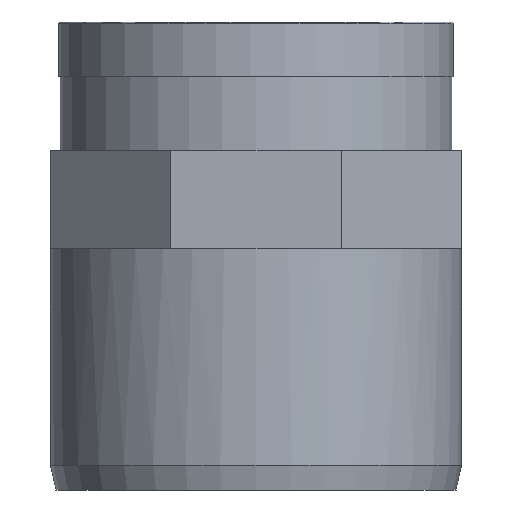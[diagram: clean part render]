
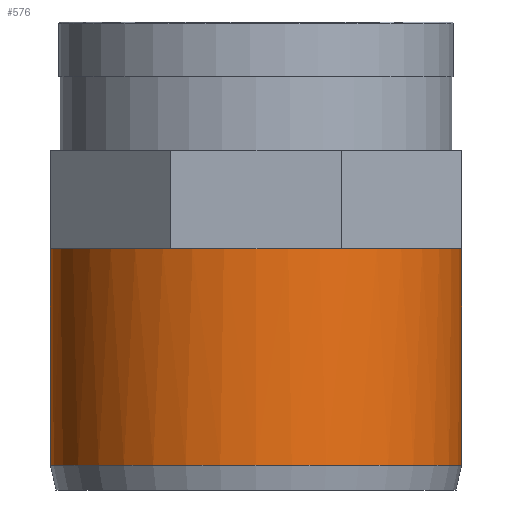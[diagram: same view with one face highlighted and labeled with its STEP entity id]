
A CAD part, front view. The second image highlights one B-rep face of the part: STEP entity #576.
In plain terms, the highlighted cylindrical face has radius 37.5 mm (diameter 75 mm), a full revolution.
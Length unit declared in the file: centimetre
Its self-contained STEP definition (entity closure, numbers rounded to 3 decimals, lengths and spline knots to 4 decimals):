
#129=FACE_BOUND('',#193,.T.);
#151=FACE_OUTER_BOUND('',#192,.T.);
#192=EDGE_LOOP('',(#416,#417,#418,#419,#420,#421,#422,#423));
#193=EDGE_LOOP('',(#424));
#241=CIRCLE('',#618,3.75);
#242=CIRCLE('',#620,3.75);
#243=CIRCLE('',#621,3.75);
#244=CIRCLE('',#622,3.75);
#245=CIRCLE('',#623,3.75);
#246=CIRCLE('',#624,3.75);
#247=CIRCLE('',#625,3.75);
#248=CIRCLE('',#626,3.75);
#249=CIRCLE('',#627,3.75);
#274=VERTEX_POINT('',#5357);
#275=VERTEX_POINT('',#5360);
#276=VERTEX_POINT('',#5361);
#277=VERTEX_POINT('',#5363);
#278=VERTEX_POINT('',#5365);
#279=VERTEX_POINT('',#5367);
#280=VERTEX_POINT('',#5369);
#281=VERTEX_POINT('',#5371);
#282=VERTEX_POINT('',#5373);
#329=EDGE_CURVE('',#274,#274,#241,.T.);
#330=EDGE_CURVE('',#275,#276,#242,.T.);
#331=EDGE_CURVE('',#276,#277,#243,.T.);
#332=EDGE_CURVE('',#277,#278,#244,.T.);
#333=EDGE_CURVE('',#278,#279,#245,.T.);
#334=EDGE_CURVE('',#279,#280,#246,.T.);
#335=EDGE_CURVE('',#280,#281,#247,.T.);
#336=EDGE_CURVE('',#281,#282,#248,.T.);
#337=EDGE_CURVE('',#282,#275,#249,.T.);
#416=ORIENTED_EDGE('',*,*,#330,.T.);
#417=ORIENTED_EDGE('',*,*,#331,.T.);
#418=ORIENTED_EDGE('',*,*,#332,.T.);
#419=ORIENTED_EDGE('',*,*,#333,.T.);
#420=ORIENTED_EDGE('',*,*,#334,.T.);
#421=ORIENTED_EDGE('',*,*,#335,.T.);
#422=ORIENTED_EDGE('',*,*,#336,.T.);
#423=ORIENTED_EDGE('',*,*,#337,.T.);
#424=ORIENTED_EDGE('',*,*,#329,.F.);
#522=CYLINDRICAL_SURFACE('',#619,3.75);
#576=ADVANCED_FACE('',(#151,#129),#522,.T.);
#618=AXIS2_PLACEMENT_3D('',#5358,#692,#693);
#619=AXIS2_PLACEMENT_3D('',#5359,#694,#695);
#620=AXIS2_PLACEMENT_3D('',#5362,#696,#697);
#621=AXIS2_PLACEMENT_3D('',#5364,#698,#699);
#622=AXIS2_PLACEMENT_3D('',#5366,#700,#701);
#623=AXIS2_PLACEMENT_3D('',#5368,#702,#703);
#624=AXIS2_PLACEMENT_3D('',#5370,#704,#705);
#625=AXIS2_PLACEMENT_3D('',#5372,#706,#707);
#626=AXIS2_PLACEMENT_3D('',#5374,#708,#709);
#627=AXIS2_PLACEMENT_3D('',#5375,#710,#711);
#692=DIRECTION('center_axis',(0.,0.,-1.));
#693=DIRECTION('ref_axis',(-1.,0.,0.));
#694=DIRECTION('center_axis',(0.,0.,1.));
#695=DIRECTION('ref_axis',(1.,0.,0.));
#696=DIRECTION('center_axis',(0.,0.,-1.));
#697=DIRECTION('ref_axis',(1.,0.,0.));
#698=DIRECTION('center_axis',(0.,0.,-1.));
#699=DIRECTION('ref_axis',(1.,0.,0.));
#700=DIRECTION('center_axis',(0.,0.,-1.));
#701=DIRECTION('ref_axis',(1.,0.,0.));
#702=DIRECTION('center_axis',(0.,0.,-1.));
#703=DIRECTION('ref_axis',(1.,0.,0.));
#704=DIRECTION('center_axis',(0.,0.,-1.));
#705=DIRECTION('ref_axis',(1.,0.,0.));
#706=DIRECTION('center_axis',(0.,0.,-1.));
#707=DIRECTION('ref_axis',(1.,0.,0.));
#708=DIRECTION('center_axis',(0.,0.,-1.));
#709=DIRECTION('ref_axis',(1.,0.,0.));
#710=DIRECTION('center_axis',(0.,0.,-1.));
#711=DIRECTION('ref_axis',(1.,0.,0.));
#5357=CARTESIAN_POINT('',(3.348,-0.003,-1.5267));
#5358=CARTESIAN_POINT('Origin',(-0.402,-0.003,
-1.5267));
#5359=CARTESIAN_POINT('Origin',(-0.402,-0.003,
1.1233));
#5360=CARTESIAN_POINT('',(2.2496,2.6487,2.4233));
#5361=CARTESIAN_POINT('',(3.348,-0.003,2.4233));
#5362=CARTESIAN_POINT('Origin',(-0.402,-0.003,
2.4233));
#5363=CARTESIAN_POINT('',(2.2496,-2.6546,2.4233));
#5364=CARTESIAN_POINT('Origin',(-0.402,-0.003,
2.4233));
#5365=CARTESIAN_POINT('',(-0.402,-3.753,2.4233));
#5366=CARTESIAN_POINT('Origin',(-0.402,-0.003,
2.4233));
#5367=CARTESIAN_POINT('',(-3.0537,-2.6546,2.4233));
#5368=CARTESIAN_POINT('Origin',(-0.402,-0.003,
2.4233));
#5369=CARTESIAN_POINT('',(-4.152,-0.003,2.4233));
#5370=CARTESIAN_POINT('Origin',(-0.402,-0.003,
2.4233));
#5371=CARTESIAN_POINT('',(-3.0537,2.6487,2.4233));
#5372=CARTESIAN_POINT('Origin',(-0.402,-0.003,
2.4233));
#5373=CARTESIAN_POINT('',(-0.402,3.747,2.4233));
#5374=CARTESIAN_POINT('Origin',(-0.402,-0.003,
2.4233));
#5375=CARTESIAN_POINT('Origin',(-0.402,-0.003,
2.4233));
